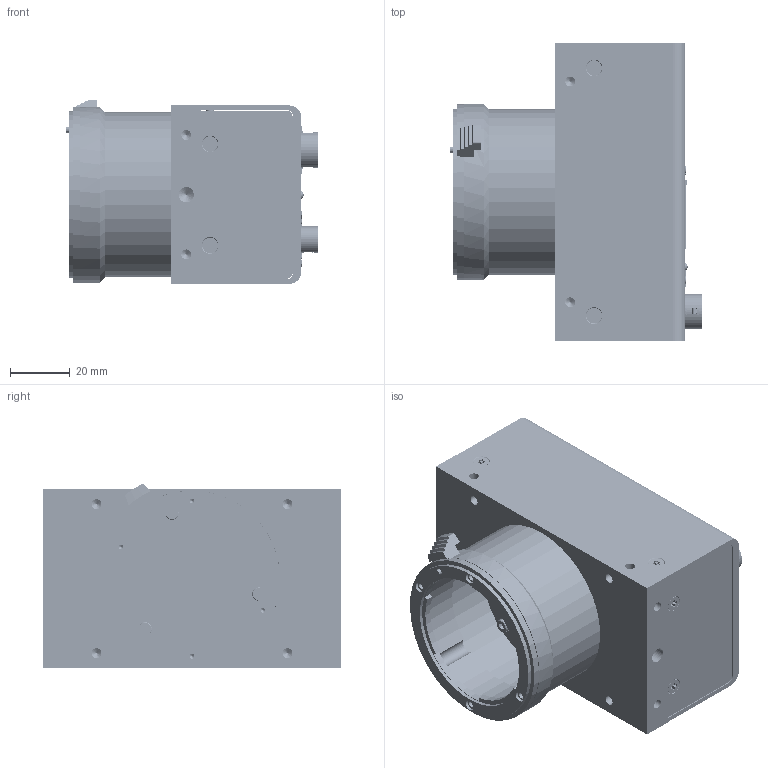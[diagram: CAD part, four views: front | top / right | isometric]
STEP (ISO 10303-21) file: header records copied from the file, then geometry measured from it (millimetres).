
FILE_DESCRIPTION (( 'STEP AP214' ), '1' );
FILE_NAME ('C7-5139-00-43／RMSL6K17GE／外観モデル.STEP', '2019-04-16T04:49:51', ( '' ), ( '' ), 'SwSTEP 2.0', 'SolidWorks 2016', '' );
FILE_SCHEMA (( 'AUTOMOTIVE_DESIGN' ));
Length unit declared in the file: millimetre
Products named in the file (43): C5-5173-00-43／ﾊﾟﾙｽﾄﾗﾝｽ内蔵RJ45ｺﾈｸﾀ_V890-1AX1-A1; C5-5091-00-43_10／コネクタ_DF11-10DP-2DS; ナット^C5-5071-00-44_12／コネクタ_HR10A-10R-12PB; C4-1077-01-42／背面カバー; C5-5019-00-40_06／サラネジ M2.6X06 SUS_SFBJ2.6-6; C7-5139-00-43／RMSL6K17GE／外観モデル; C5-5175-00-43_2／ピッチコネクタ_FX8C-100P-SV2; C4-1049-00-38／Fマウント 51mm開口-33°; C5-1038-02-37／XCM20GIG用端子基板_PCB-XCM20GIG-T01#F-XCM20GIG; C4-1063-02-37／放熱ブロック; C5-5029-00-40_06／六角穴付ボルト M2.6X06 SUS_SCB2.6-6; C5-5177-00-43／0.8mmﾋﾟｯﾁ基板対基板ｺﾈｸﾀ_FX6-20S-0.8SV; C5-5042-00-43／ﾋﾟﾝ・ｻﾗ6-ﾛﾌﾞﾎﾞﾙﾄ_M2.6X6(SUS); C5-1025-03-43／RMSL6K17GE用中継基板_PCB-RMSL6K17GE-C00#F; 基板^C5-1038-02-37／XCM20GIG用端子基板_PCB-XCM20GIG-T01#F-XCM20GIG; コネクタ^C5-5094-00-43_6／コネクタ_HR10G-7R-6PB; C5-5115-00-43／コネクタ_55339-1208; C5-5170-00-43／2mmﾋﾟｯﾁ・ﾚｾﾌﾟﾀｸﾙ_DF3-2S-2DSA; C5-5178-00-43／スルーホールタップ_TH-0.8-5.0-M2.6; C5-5094-00-43_6／コネクタ_HR10G-7R-6PB; 菊座^C5-5094-00-43_6／コネクタ_HR10G-7R-6PB; C5-5171-00-43／ピッチコネクタ_FX8C-100S-SV; ナット^C5-5094-00-43_6／コネクタ_HR10G-7R-6PB; C5-5066-00-44／コネクタ_54477-1208; C4-1046-00-38／マウント本体筒; Fマウント; C5-5176-00-43／2mmﾋﾟｯﾁ・ﾚｾﾌﾟﾀｸﾙ_DF3A-2P-2DSA; 基板^C5-1025-03-43／RMSL6K17GE用中継基板_PCB-RMSL6K17GE-C00#F; 菊座^C5-5071-00-44_12／コネクタ_HR10A-10R-12PB; C5-5144-00-43／CMOS 6k Line B&W ImageSensor_DR-6K7_BM_v1(Art.-No.100930); C5-5012-00-40_06／座付きなべ頭小ねじ（P=4) M2.6X06 SUS_CSPPNZP-SUS-M2.6-6; C5-5138-00-43_12／LED用スペーサー_LM-12; C4-1079-01-42／側面パネル; C5-5030-00-40_05／六角穴付ボルト M2X05 SUS_SCB2-5; C4-1006-00-43／フロントパネル; C5-5179-00-43_07／六角スペーサ_MSB-2607-04E; 基板^C5-5144-00-43／CMOS 6k Line B&W ImageSensor_DR-6K7_BM_v1(Art.-No.100930); C5-5172-00-43／0.8mmﾋﾟｯﾁ基板対基板ｺﾈｸﾀ_FX6-20P-0.8SV2; C5-5071-00-44_12／コネクタ_HR10A-10R-12PB; コネクタ^C5-5071-00-44_12／コネクタ_HR10A-10R-12PB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
Assembly tree (69 placements, depth 3):
  C7-5139-00-43／RMSL6K17GE／外観モデル
    C4-1049-00-38／Fマウント 51mm開口-33°
      C4-1046-00-38／マウント本体筒
      Fマウント
    C4-1006-00-43／フロントパネル
    C4-1077-01-42／背面カバー
    C4-1079-01-42／側面パネル  x2
    C4-1063-02-37／放熱ブロック
    C5-5094-00-43_6／コネクタ_HR10G-7R-6PB
      コネクタ^C5-5094-00-43_6／コネクタ_HR10G-7R-6PB
      菊座^C5-5094-00-43_6／コネクタ_HR10G-7R-6PB
      ナット^C5-5094-00-43_6／コネクタ_HR10G-7R-6PB
    C5-5071-00-44_12／コネクタ_HR10A-10R-12PB
      コネクタ^C5-5071-00-44_12／コネクタ_HR10A-10R-12PB
      菊座^C5-5071-00-44_12／コネクタ_HR10A-10R-12PB
      ナット^C5-5071-00-44_12／コネクタ_HR10A-10R-12PB
    C5-5144-00-43／CMOS 6k Line B&W ImageSensor_DR-6K7_BM_v1(Art.-No.100930)
      基板^C5-5144-00-43／CMOS 6k Line B&W ImageSensor_DR-6K7_BM_v1(Art.-No.100930)
      C5-5115-00-43／コネクタ_55339-1208  x2
    C5-1025-03-43／RMSL6K17GE用中継基板_PCB-RMSL6K17GE-C00#F
      基板^C5-1025-03-43／RMSL6K17GE用中継基板_PCB-RMSL6K17GE-C00#F
      C5-5175-00-43_2／ピッチコネクタ_FX8C-100P-SV2
      C5-5176-00-43／2mmﾋﾟｯﾁ・ﾚｾﾌﾟﾀｸﾙ_DF3A-2P-2DSA
      C5-5091-00-43_10／コネクタ_DF11-10DP-2DS
      C5-5066-00-44／コネクタ_54477-1208  x2
    C5-1072-00-42乛XCM20SHGIG梡也輮顢耞PCB-XCM20SHGIG-M00#F-XCM20SHGIG
      基板^C5-1072-00-42／XCM20SHGIG用ﾒｲﾝ基板_PCB-XCM20SHGIG-M00#F-XCM20SHGIG
      C5-5091-00-43_10／コネクタ_DF11-10DP-2DS  x2
      C5-5099-00-43／発光ダイオード_SPR-39MVWF
      C5-5138-00-43_12／LED用スペーサー_LM-12
      C5-5170-00-43／2mmﾋﾟｯﾁ・ﾚｾﾌﾟﾀｸﾙ_DF3-2S-2DSA
      C5-5171-00-43／ピッチコネクタ_FX8C-100S-SV
      C5-5172-00-43／0.8mmﾋﾟｯﾁ基板対基板ｺﾈｸﾀ_FX6-20P-0.8SV2
      C5-5173-00-43／ﾊﾟﾙｽﾄﾗﾝｽ内蔵RJ45ｺﾈｸﾀ_V890-1AX1-A1
    C5-1038-02-37／XCM20GIG用端子基板_PCB-XCM20GIG-T01#F-XCM20GIG
      基板^C5-1038-02-37／XCM20GIG用端子基板_PCB-XCM20GIG-T01#F-XCM20GIG
      C5-5177-00-43／0.8mmﾋﾟｯﾁ基板対基板ｺﾈｸﾀ_FX6-20S-0.8SV
      C5-5178-00-43／スルーホールタップ_TH-0.8-5.0-M2.6
    C5-5179-00-43_07／六角スペーサ_MSB-2607-04E  x4
    C5-5012-00-40_06／座付きなべ頭小ねじ（P=4) M2.6X06 SUS_CSPPNZP-SUS-M2.6-6  x4
    C5-5029-00-40_06／六角穴付ボルト M2.6X06 SUS_SCB2.6-6  x3
    C5-5019-00-40_06／サラネジ M2.6X06 SUS_SFBJ2.6-6  x4
    C5-5042-00-43／ﾋﾟﾝ・ｻﾗ6-ﾛﾌﾞﾎﾞﾙﾄ_M2.6X6(SUS)  x9
    C5-5030-00-40_05／六角穴付ボルト M2X05 SUS_SCB2-5  x4
Bounding box: 84.25 x 100 x 61.8 mm (x, y, z)
Volume: 156906.6 mm3; surface area: 125958 mm2
Topology: 83 solids, 88 shells, 21865 faces, 64968 edges, 41174 vertices
Faces by surface type: plane 16807, bspline 2915, cylinder 1910, cone 224, torus 8, sphere 1
Full cylindrical faces by diameter (mm): 0.19 x1, 0.4 x15, 0.5 x10, 0.6 x2, 0.8 x2, 0.89 x10, 0.9 x4, 0.95 x2, 1 x9, 1.2 x2, 1.5 x4, 1.6 x10, 2 x10, 2.2 x31, 2.288 x4, 2.6 x22, 2.8 x24, 3.1 x2, 3.2 x4, 3.25 x2, 3.3 x12, 3.5 x5, 3.8 x5, 4.5 x8, 4.8 x4, 5 x7, 5.105 x1, 5.2 x5, 5.7 x1, 6.5 x2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
Entity records: 783824 total; most frequent: CARTESIAN_POINT 219323, ORIENTED_EDGE 113918, DIRECTION 87915, EDGE_CURVE 56959, LINE 48153, VECTOR 48153, VERTEX_POINT 36901, EDGE_LOOP 21460
